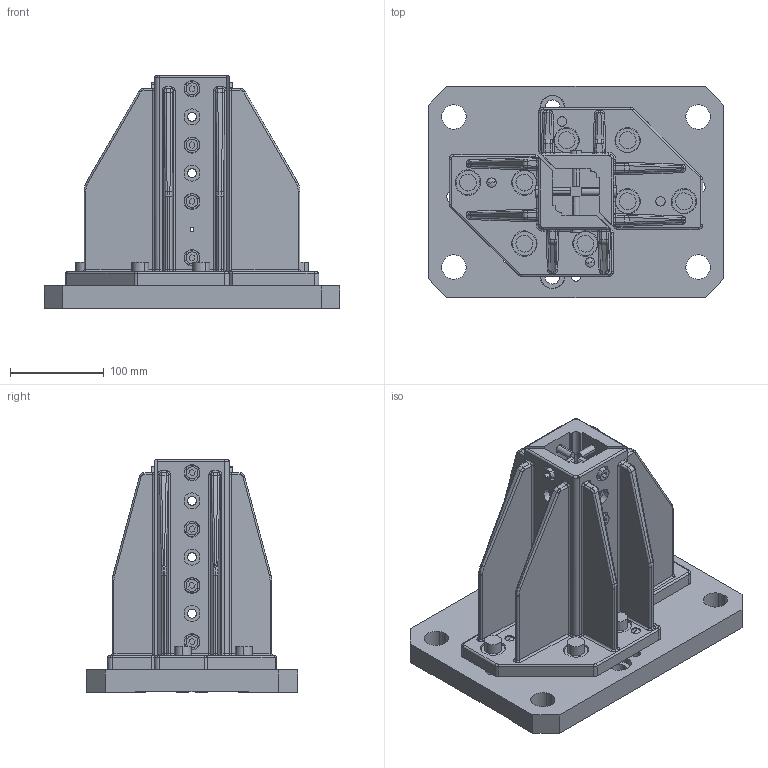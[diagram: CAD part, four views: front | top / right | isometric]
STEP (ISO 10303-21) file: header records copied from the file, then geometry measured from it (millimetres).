
FILE_DESCRIPTION(('STEP AP214'),'1');
FILE_NAME('EGT045_1698040_FLANSCHPLATTE_SW50_SENKRECHT.CATPart.stp','2015-09-14T13:05:28',('3D-Tool'),(' '),'Spatial InterOp 3D',' ',' ');
FILE_SCHEMA(('automotive_design'));
Length unit declared in the file: millimetre
Products named in the file (41): EGT045_1698040_FLANSCHPLATTE_SW50_SENKRECHT|5251924.1\Flanschpl F Senkr Anbindung S80-SW50|Solid.1; EGT045_1698040_FLANSCHPLATTE_SW50_SENKRECHT|5251927.1\Winkel F Senkr Anbindung SW50|Volumen.1; EGT045_1698040_FLANSCHPLATTE_SW50_SENKRECHT|5251927.2\Winkel F Senkr Anbindung SW50|Volumen.1; EGT045_1698040_FLANSCHPLATTE_SW50_SENKRECHT|5252162.1\Zentrierstift Vario-Handlingsystem|Volumen.2; EGT045_1698040_FLANSCHPLATTE_SW50_SENKRECHT|5252162.2\Zentrierstift Vario-Handlingsystem|Volumen.2; EGT045_1698040_FLANSCHPLATTE_SW50_SENKRECHT|Bundbohrbuchse_A16x16.1\Hauptkörper|Volumen.1; EGT045_1698040_FLANSCHPLATTE_SW50_SENKRECHT|Bundbohrbuchse_A16x16.2\Hauptkörper|Volumen.1; EGT045_1698040_FLANSCHPLATTE_SW50_SENKRECHT|Gewindeeinsatz.1\Hauptkörper|Volumen.1; EGT045_1698040_FLANSCHPLATTE_SW50_SENKRECHT|Gewindeeinsatz.2\Hauptkörper|Volumen.1; EGT045_1698040_FLANSCHPLATTE_SW50_SENKRECHT|Gewindeeinsatz.3\Hauptkörper|Volumen.1; EGT045_1698040_FLANSCHPLATTE_SW50_SENKRECHT|Gewindeeinsatz.4\Hauptkörper|Volumen.1; EGT045_1698040_FLANSCHPLATTE_SW50_SENKRECHT|Gewindeeinsatz.5\Hauptkörper|Volumen.1; EGT045_1698040_FLANSCHPLATTE_SW50_SENKRECHT|Gewindeeinsatz.6\Hauptkörper|Volumen.1; EGT045_1698040_FLANSCHPLATTE_SW50_SENKRECHT|Gewindeeinsatz.7\Hauptkörper|Volumen.1; EGT045_1698040_FLANSCHPLATTE_SW50_SENKRECHT|Gewindeeinsatz.8\Hauptkörper|Volumen.1; EGT045_1698040_FLANSCHPLATTE_SW50_SENKRECHT|Schraube_M8x30.1\Hauptkörper|Volumen.1; EGT045_1698040_FLANSCHPLATTE_SW50_SENKRECHT|Schraube_M8x30.2\Hauptkörper|Volumen.1; EGT045_1698040_FLANSCHPLATTE_SW50_SENKRECHT|Schraube_M8x30.3\Hauptkörper|Volumen.1; EGT045_1698040_FLANSCHPLATTE_SW50_SENKRECHT|Schraube_M8x30.4\Hauptkörper|Volumen.1; EGT045_1698040_FLANSCHPLATTE_SW50_SENKRECHT|Schraube_M8x30.5\Hauptkörper|Volumen.1; EGT045_1698040_FLANSCHPLATTE_SW50_SENKRECHT|Schraube_M8x30.6\Hauptkörper|Volumen.1; EGT045_1698040_FLANSCHPLATTE_SW50_SENKRECHT|Schraube_M8x30.7\Hauptkörper|Volumen.1; EGT045_1698040_FLANSCHPLATTE_SW50_SENKRECHT|Schraube_M8x30.8\Hauptkörper|Volumen.1; EGT045_1698040_FLANSCHPLATTE_SW50_SENKRECHT|Schraube_M8x30.9\Hauptkörper|Volumen.1; EGT045_1698040_FLANSCHPLATTE_SW50_SENKRECHT|Schraube_M8x30.10\Hauptkörper|Volumen.1; EGT045_1698040_FLANSCHPLATTE_SW50_SENKRECHT|Schraube_M8x30.11\Hauptkörper|Volumen.1; EGT045_1698040_FLANSCHPLATTE_SW50_SENKRECHT|Schraube_M8x30.12\Hauptkörper|Volumen.1; EGT045_1698040_FLANSCHPLATTE_SW50_SENKRECHT|Schraube_M8x30.13\Hauptkörper|Volumen.1; EGT045_1698040_FLANSCHPLATTE_SW50_SENKRECHT|Schraube_M8x30.14\Hauptkörper|Volumen.1; EGT045_1698040_FLANSCHPLATTE_SW50_SENKRECHT|Schraube_M8x30.15\Hauptkörper|Volumen.1; EGT045_1698040_FLANSCHPLATTE_SW50_SENKRECHT|Schraube_M8x30.16\Hauptkörper|Volumen.1; EGT045_1698040_FLANSCHPLATTE_SW50_SENKRECHT|Schraube_M12x35.1\Hauptkörper|Volumen.1; EGT045_1698040_FLANSCHPLATTE_SW50_SENKRECHT|Schraube_M12x35.2\Hauptkörper|Volumen.1; EGT045_1698040_FLANSCHPLATTE_SW50_SENKRECHT|Schraube_M12x35.3\Hauptkörper|Volumen.1; EGT045_1698040_FLANSCHPLATTE_SW50_SENKRECHT|Schraube_M12x35.4\Hauptkörper|Volumen.1; EGT045_1698040_FLANSCHPLATTE_SW50_SENKRECHT|Schraube_M12x35.5\Hauptkörper|Volumen.1; EGT045_1698040_FLANSCHPLATTE_SW50_SENKRECHT|Schraube_M12x35.6\Hauptkörper|Volumen.1; EGT045_1698040_FLANSCHPLATTE_SW50_SENKRECHT|Schraube_M12x35.7\Hauptkörper|Volumen.1; EGT045_1698040_FLANSCHPLATTE_SW50_SENKRECHT|Schraube_M12x35.8\Hauptkörper|Volumen.1; EGT045_1698040_FLANSCHPLATTE_SW50_SENKRECHT|Stift.1\Hauptkörper|Volumen.1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
Bounding box: 315 x 225 x 248 mm (x, y, z)
Volume: 3407898.3 mm3; surface area: 612898.4 mm2
Topology: 41 solids, 41 shells, 1552 faces, 3846 edges, 2444 vertices
Faces by surface type: cylinder 954, plane 378, cone 98, bspline 52, torus 42, sphere 28
Entity records: 64041 total; most frequent: CARTESIAN_POINT 12455, DIRECTION 8650, ORIENTED_EDGE 7636, EDGE_CURVE 3818, AXIS2_PLACEMENT_3D 3507, VERTEX_POINT 2444, CIRCLE 1966, EDGE_LOOP 1804
